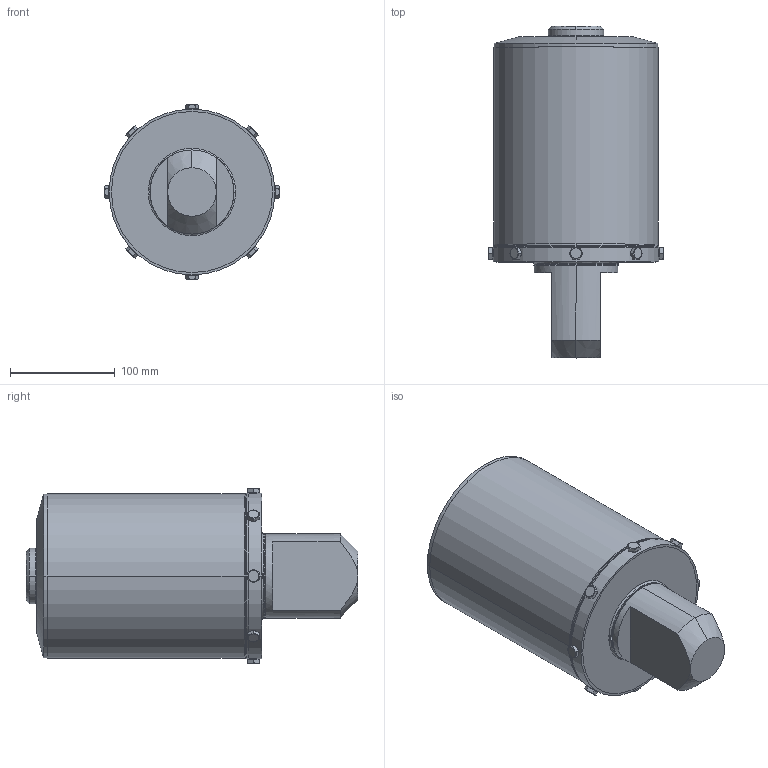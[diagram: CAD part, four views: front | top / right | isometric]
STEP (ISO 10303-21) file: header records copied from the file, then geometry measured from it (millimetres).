
FILE_DESCRIPTION (( 'STEP AP214' ), '1' );
FILE_NAME ('W60 6 IN ACTUATOR.STEP', '2017-11-03T19:49:14', ( '' ), ( '' ), 'SwSTEP 2.0', 'SolidWorks 2014', '' );
FILE_SCHEMA (( 'AUTOMOTIVE_DESIGN' ));
Length unit declared in the file: inch
Products named in the file (1): W60 6 IN ACTUATOR
Bounding box: 166.83 x 316.69 x 166.83 mm (x, y, z)
Volume: 4907190.1 mm3; surface area: 276234 mm2
Topology: 12 solids, 12 shells, 244 faces, 542 edges, 343 vertices
Faces by surface type: plane 104, cylinder 65, cone 59, bspline 16
Entity records: 8336 total; most frequent: CARTESIAN_POINT 2781, DIRECTION 1152, ORIENTED_EDGE 1078, EDGE_CURVE 539, AXIS2_PLACEMENT_3D 461, VERTEX_POINT 343, EDGE_LOOP 268, FACE_OUTER_BOUND 244
